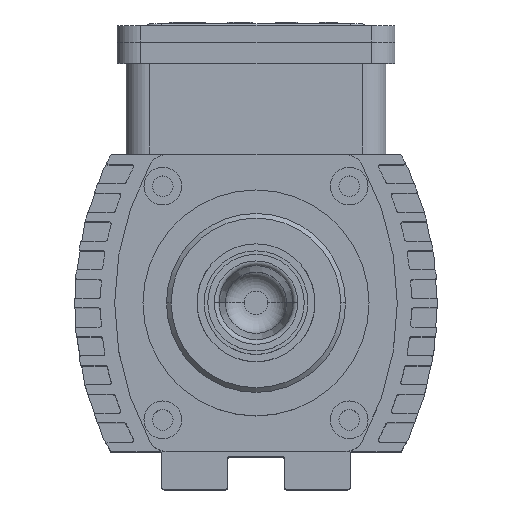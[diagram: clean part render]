
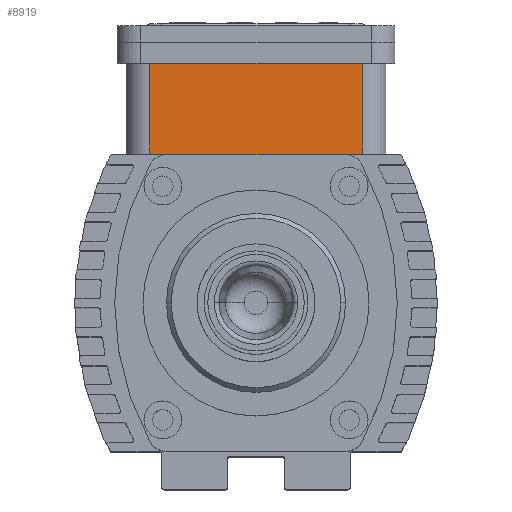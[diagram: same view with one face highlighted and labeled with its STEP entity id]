
A CAD part, top view. The second image highlights one B-rep face of the part: STEP entity #8919.
In plain terms, the highlighted planar face has unit normal (0, 0, 1).
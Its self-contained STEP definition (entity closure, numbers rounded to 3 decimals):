
#295 = LINE ( 'NONE', #18851, #14267 ) ;
#413 = DIRECTION ( 'NONE',  ( -1., 0., 0. ) ) ;
#904 = PLANE ( 'NONE',  #4665 ) ;
#1030 = VERTEX_POINT ( 'NONE', #15485 ) ;
#1708 = VECTOR ( 'NONE', #8247, 1000. ) ;
#2510 = DIRECTION ( 'NONE',  ( 0., 0., -1. ) ) ;
#3008 = DIRECTION ( 'NONE',  ( 1., 0., 0. ) ) ;
#4076 = FACE_OUTER_BOUND ( 'NONE', #19422, .T. ) ;
#4558 = EDGE_CURVE ( 'NONE', #15832, #8049, #13202, .T. ) ;
#4639 = CARTESIAN_POINT ( 'NONE',  ( -60.861, 24., 27.6 ) ) ;
#4665 = AXIS2_PLACEMENT_3D ( 'NONE', #4639, #2510, #413 ) ;
#4773 = DIRECTION ( 'NONE',  ( 1., 0., 0. ) ) ;
#5160 = CARTESIAN_POINT ( 'NONE',  ( -27.6, 19.5, 27.6 ) ) ;
#6889 = EDGE_CURVE ( 'NONE', #18487, #1030, #7263, .T. ) ;
#6896 = CARTESIAN_POINT ( 'NONE',  ( -60.861, 0., 27.6 ) ) ;
#7263 = LINE ( 'NONE', #5160, #13207 ) ;
#8049 = VERTEX_POINT ( 'NONE', #16082 ) ;
#8247 = DIRECTION ( 'NONE',  ( 0., -1., 0. ) ) ;
#8919 = ADVANCED_FACE ( 'NONE', ( #4076 ), #904, .F. ) ;
#9474 = VECTOR ( 'NONE', #4773, 1000. ) ;
#9699 = EDGE_CURVE ( 'NONE', #18487, #15832, #12457, .T. ) ;
#10318 = CARTESIAN_POINT ( 'NONE',  ( -22.6, 24., 27.6 ) ) ;
#10754 = ORIENTED_EDGE ( 'NONE', *, *, #17772, .T. ) ;
#12457 = LINE ( 'NONE', #10318, #1708 ) ;
#13202 = LINE ( 'NONE', #6896, #9474 ) ;
#13207 = VECTOR ( 'NONE', #3008, 1000. ) ;
#13298 = CARTESIAN_POINT ( 'NONE',  ( -22.6, 19.5, 27.6 ) ) ;
#13494 = ORIENTED_EDGE ( 'NONE', *, *, #9699, .T. ) ;
#14267 = VECTOR ( 'NONE', #16694, 1000. ) ;
#15485 = CARTESIAN_POINT ( 'NONE',  ( 22.6, 19.5, 27.6 ) ) ;
#15832 = VERTEX_POINT ( 'NONE', #20623 ) ;
#16082 = CARTESIAN_POINT ( 'NONE',  ( 22.6, 0., 27.6 ) ) ;
#16582 = ORIENTED_EDGE ( 'NONE', *, *, #6889, .F. ) ;
#16694 = DIRECTION ( 'NONE',  ( 0., 1., 0. ) ) ;
#17772 = EDGE_CURVE ( 'NONE', #8049, #1030, #295, .T. ) ;
#18063 = ORIENTED_EDGE ( 'NONE', *, *, #4558, .T. ) ;
#18487 = VERTEX_POINT ( 'NONE', #13298 ) ;
#18851 = CARTESIAN_POINT ( 'NONE',  ( 22.6, 19.5, 27.6 ) ) ;
#19422 = EDGE_LOOP ( 'NONE', ( #18063, #10754, #16582, #13494 ) ) ;
#20623 = CARTESIAN_POINT ( 'NONE',  ( -22.6, 0., 27.6 ) ) ;
